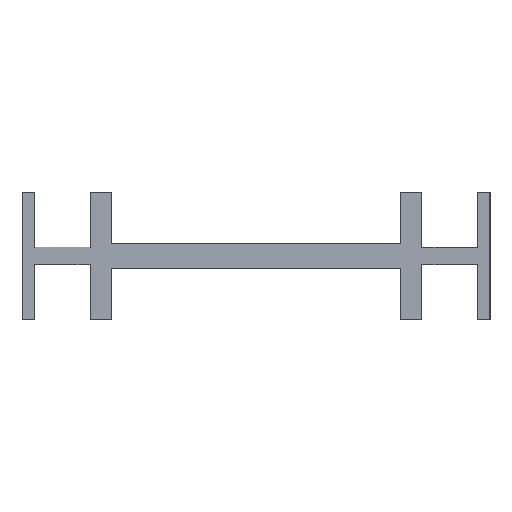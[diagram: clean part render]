
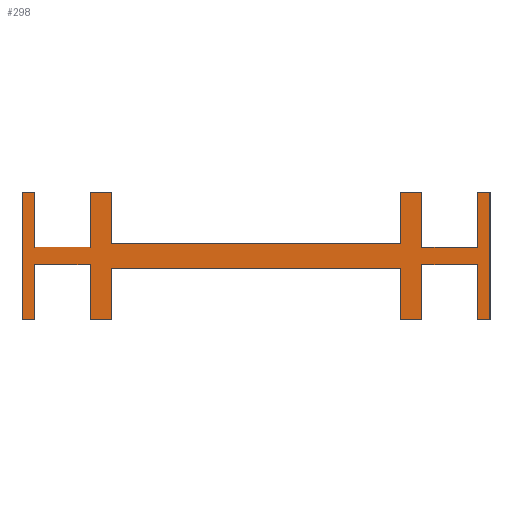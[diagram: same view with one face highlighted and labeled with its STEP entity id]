
A CAD part, left-side view. The second image highlights one B-rep face of the part: STEP entity #298.
In plain terms, the highlighted planar face has unit normal (-1, 0, 0).
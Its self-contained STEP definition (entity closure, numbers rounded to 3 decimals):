
#298=ADVANCED_FACE('',(#604),#605,.F.);
#604=FACE_OUTER_BOUND('',#901,.T.);
#605=PLANE('',#902);
#901=EDGE_LOOP('',(#1749,#1750,#1751,#1752,#1753,#1754,#1755,#1756,#1757,#1758,#1759,#1760,#1761,#1762,#1763,#1764,#1765,#1766,#1767,#1768,#1769,#1770,#1771,#1772,#1773,#1774,#1775,#1776,#1777,#1778,#1779,#1780));
#902=AXIS2_PLACEMENT_3D('',#1781,#1782,#1783);
#1749=ORIENTED_EDGE('',*,*,#2086,.T.);
#1750=ORIENTED_EDGE('',*,*,#2089,.T.);
#1751=ORIENTED_EDGE('',*,*,#2125,.T.);
#1752=ORIENTED_EDGE('',*,*,#2128,.T.);
#1753=ORIENTED_EDGE('',*,*,#2130,.T.);
#1754=ORIENTED_EDGE('',*,*,#2121,.T.);
#1755=ORIENTED_EDGE('',*,*,#2092,.F.);
#1756=ORIENTED_EDGE('',*,*,#2096,.F.);
#1757=ORIENTED_EDGE('',*,*,#2105,.F.);
#1758=ORIENTED_EDGE('',*,*,#2102,.F.);
#1759=ORIENTED_EDGE('',*,*,#2099,.F.);
#1760=ORIENTED_EDGE('',*,*,#2108,.F.);
#1761=ORIENTED_EDGE('',*,*,#2119,.F.);
#1762=ORIENTED_EDGE('',*,*,#2114,.F.);
#1763=ORIENTED_EDGE('',*,*,#2117,.F.);
#1764=ORIENTED_EDGE('',*,*,#2110,.F.);
#1765=ORIENTED_EDGE('',*,*,#2052,.F.);
#1766=ORIENTED_EDGE('',*,*,#2056,.F.);
#1767=ORIENTED_EDGE('',*,*,#2059,.F.);
#1768=ORIENTED_EDGE('',*,*,#2062,.F.);
#1769=ORIENTED_EDGE('',*,*,#2065,.F.);
#1770=ORIENTED_EDGE('',*,*,#2068,.T.);
#1771=ORIENTED_EDGE('',*,*,#2071,.T.);
#1772=ORIENTED_EDGE('',*,*,#2074,.T.);
#1773=ORIENTED_EDGE('',*,*,#2076,.T.);
#1774=ORIENTED_EDGE('',*,*,#1910,.T.);
#1775=ORIENTED_EDGE('',*,*,#1906,.T.);
#1776=ORIENTED_EDGE('',*,*,#1893,.T.);
#1777=ORIENTED_EDGE('',*,*,#1908,.F.);
#1778=ORIENTED_EDGE('',*,*,#1864,.T.);
#1779=ORIENTED_EDGE('',*,*,#2080,.T.);
#1780=ORIENTED_EDGE('',*,*,#2083,.T.);
#1781=CARTESIAN_POINT('',(0.0,26.75,7.5));
#1782=DIRECTION('',(1.0,0.,0.));
#1783=DIRECTION('',(0.,-1.0,0.0));
#1864=EDGE_CURVE('',#2230,#2257,#2259,.T.);
#1893=EDGE_CURVE('',#2303,#2301,#2304,.T.);
#1906=EDGE_CURVE('',#2318,#2303,#2321,.T.);
#1908=EDGE_CURVE('',#2230,#2301,#2323,.T.);
#1910=EDGE_CURVE('',#2325,#2318,#2326,.T.);
#2052=EDGE_CURVE('',#2543,#2545,#2546,.T.);
#2056=EDGE_CURVE('',#2549,#2543,#2551,.T.);
#2059=EDGE_CURVE('',#2553,#2549,#2555,.T.);
#2062=EDGE_CURVE('',#2557,#2553,#2559,.T.);
#2065=EDGE_CURVE('',#2561,#2557,#2563,.T.);
#2068=EDGE_CURVE('',#2561,#2565,#2567,.T.);
#2071=EDGE_CURVE('',#2565,#2569,#2571,.T.);
#2074=EDGE_CURVE('',#2569,#2573,#2575,.T.);
#2076=EDGE_CURVE('',#2573,#2325,#2577,.T.);
#2080=EDGE_CURVE('',#2257,#2580,#2582,.T.);
#2083=EDGE_CURVE('',#2580,#2584,#2586,.T.);
#2086=EDGE_CURVE('',#2584,#2588,#2590,.T.);
#2089=EDGE_CURVE('',#2588,#2592,#2594,.T.);
#2092=EDGE_CURVE('',#2596,#2598,#2599,.T.);
#2096=EDGE_CURVE('',#2602,#2596,#2604,.T.);
#2099=EDGE_CURVE('',#2606,#2608,#2609,.T.);
#2102=EDGE_CURVE('',#2608,#2612,#2613,.T.);
#2105=EDGE_CURVE('',#2612,#2602,#2616,.T.);
#2108=EDGE_CURVE('',#2618,#2606,#2620,.T.);
#2110=EDGE_CURVE('',#2545,#2622,#2623,.T.);
#2114=EDGE_CURVE('',#2626,#2628,#2629,.T.);
#2117=EDGE_CURVE('',#2622,#2626,#2632,.T.);
#2119=EDGE_CURVE('',#2628,#2618,#2634,.T.);
#2121=EDGE_CURVE('',#2636,#2598,#2637,.T.);
#2125=EDGE_CURVE('',#2592,#2640,#2642,.T.);
#2128=EDGE_CURVE('',#2640,#2644,#2646,.T.);
#2130=EDGE_CURVE('',#2644,#2636,#2648,.T.);
#2230=VERTEX_POINT('',#2788);
#2257=VERTEX_POINT('',#2821);
#2259=LINE('',#2824,#2825);
#2301=VERTEX_POINT('',#2879);
#2303=VERTEX_POINT('',#2881);
#2304=LINE('',#2882,#2883);
#2318=VERTEX_POINT('',#2900);
#2321=LINE('',#2904,#2905);
#2323=LINE('',#2907,#2908);
#2325=VERTEX_POINT('',#2910);
#2326=LINE('',#2911,#2912);
#2543=VERTEX_POINT('',#3224);
#2545=VERTEX_POINT('',#3227);
#2546=LINE('',#3228,#3229);
#2549=VERTEX_POINT('',#3233);
#2551=LINE('',#3236,#3237);
#2553=VERTEX_POINT('',#3239);
#2555=LINE('',#3242,#3243);
#2557=VERTEX_POINT('',#3245);
#2559=LINE('',#3248,#3249);
#2561=VERTEX_POINT('',#3251);
#2563=LINE('',#3254,#3255);
#2565=VERTEX_POINT('',#3257);
#2567=LINE('',#3260,#3261);
#2569=VERTEX_POINT('',#3263);
#2571=LINE('',#3266,#3267);
#2573=VERTEX_POINT('',#3269);
#2575=LINE('',#3272,#3273);
#2577=LINE('',#3275,#3276);
#2580=VERTEX_POINT('',#3279);
#2582=LINE('',#3282,#3283);
#2584=VERTEX_POINT('',#3285);
#2586=LINE('',#3288,#3289);
#2588=VERTEX_POINT('',#3291);
#2590=LINE('',#3294,#3295);
#2592=VERTEX_POINT('',#3297);
#2594=LINE('',#3300,#3301);
#2596=VERTEX_POINT('',#3303);
#2598=VERTEX_POINT('',#3306);
#2599=LINE('',#3307,#3308);
#2602=VERTEX_POINT('',#3312);
#2604=LINE('',#3315,#3316);
#2606=VERTEX_POINT('',#3318);
#2608=VERTEX_POINT('',#3321);
#2609=LINE('',#3322,#3323);
#2612=VERTEX_POINT('',#3327);
#2613=LINE('',#3328,#3329);
#2616=LINE('',#3333,#3334);
#2618=VERTEX_POINT('',#3336);
#2620=LINE('',#3339,#3340);
#2622=VERTEX_POINT('',#3342);
#2623=LINE('',#3343,#3344);
#2626=VERTEX_POINT('',#3348);
#2628=VERTEX_POINT('',#3351);
#2629=LINE('',#3352,#3353);
#2632=LINE('',#3357,#3358);
#2634=LINE('',#3360,#3361);
#2636=VERTEX_POINT('',#3363);
#2637=LINE('',#3364,#3365);
#2640=VERTEX_POINT('',#3369);
#2642=LINE('',#3372,#3373);
#2644=VERTEX_POINT('',#3375);
#2646=LINE('',#3378,#3379);
#2648=LINE('',#3381,#3382);
#2788=CARTESIAN_POINT('',(0.0,26.0,8.505));
#2821=CARTESIAN_POINT('',(0.0,26.0,15.0));
#2824=CARTESIAN_POINT('',(0.0,26.0,0.0));
#2825=VECTOR('',#3476,1.0);
#2879=CARTESIAN_POINT('',(0.0,25.995,8.505));
#2881=CARTESIAN_POINT('',(0.0,25.995,8.503));
#2882=CARTESIAN_POINT('',(0.0,25.995,8.503));
#2883=VECTOR('',#3516,1.0);
#2900=CARTESIAN_POINT('',(0.0,26.0,8.503));
#2904=CARTESIAN_POINT('',(0.0,26.0,8.503));
#2905=VECTOR('',#3533,1.0);
#2907=CARTESIAN_POINT('',(0.0,26.0,8.505));
#2908=VECTOR('',#3534,1.0);
#2910=CARTESIAN_POINT('',(0.0,26.0,8.5));
#2911=CARTESIAN_POINT('',(0.0,26.0,0.0));
#2912=VECTOR('',#3535,1.0);
#3224=CARTESIAN_POINT('',(0.0,-19.5,8.5));
#3227=CARTESIAN_POINT('',(0.0,-26.0,8.5));
#3228=CARTESIAN_POINT('',(0.0,-19.5,8.5));
#3229=VECTOR('',#3668,1.0);
#3233=CARTESIAN_POINT('',(0.0,-19.5,15.0));
#3236=CARTESIAN_POINT('',(0.0,-19.5,15.0));
#3237=VECTOR('',#3671,1.0);
#3239=CARTESIAN_POINT('',(0.0,-17.0,15.0));
#3242=CARTESIAN_POINT('',(0.0,-17.0,15.0));
#3243=VECTOR('',#3673,1.0);
#3245=CARTESIAN_POINT('',(0.0,-17.0,9.0));
#3248=CARTESIAN_POINT('',(0.0,-17.0,0.0));
#3249=VECTOR('',#3675,1.0);
#3251=CARTESIAN_POINT('',(0.0,17.0,9.0));
#3254=CARTESIAN_POINT('',(0.0,17.0,9.0));
#3255=VECTOR('',#3677,1.0);
#3257=CARTESIAN_POINT('',(0.0,17.0,15.0));
#3260=CARTESIAN_POINT('',(0.0,17.0,0.0));
#3261=VECTOR('',#3679,1.0);
#3263=CARTESIAN_POINT('',(0.0,19.5,15.0));
#3266=CARTESIAN_POINT('',(0.0,17.0,15.0));
#3267=VECTOR('',#3681,1.0);
#3269=CARTESIAN_POINT('',(0.0,19.5,8.5));
#3272=CARTESIAN_POINT('',(0.0,19.5,15.0));
#3273=VECTOR('',#3683,1.0);
#3275=CARTESIAN_POINT('',(0.0,19.5,8.5));
#3276=VECTOR('',#3684,1.0);
#3279=CARTESIAN_POINT('',(0.0,27.5,15.0));
#3282=CARTESIAN_POINT('',(0.0,26.0,15.0));
#3283=VECTOR('',#3686,1.0);
#3285=CARTESIAN_POINT('',(0.0,27.5,0.0));
#3288=CARTESIAN_POINT('',(0.0,27.5,15.0));
#3289=VECTOR('',#3688,1.0);
#3291=CARTESIAN_POINT('',(0.0,26.0,0.0));
#3294=CARTESIAN_POINT('',(0.0,27.5,0.0));
#3295=VECTOR('',#3690,1.0);
#3297=CARTESIAN_POINT('',(0.0,26.0,6.5));
#3300=CARTESIAN_POINT('',(0.0,26.0,0.0));
#3301=VECTOR('',#3692,1.0);
#3303=CARTESIAN_POINT('',(0.0,-17.0,6.0));
#3306=CARTESIAN_POINT('',(0.0,17.0,6.0));
#3307=CARTESIAN_POINT('',(0.0,-17.0,6.0));
#3308=VECTOR('',#3694,1.0);
#3312=CARTESIAN_POINT('',(0.0,-17.0,0.0));
#3315=CARTESIAN_POINT('',(0.0,-17.0,0.0));
#3316=VECTOR('',#3697,1.0);
#3318=CARTESIAN_POINT('',(0.0,-26.0,6.5));
#3321=CARTESIAN_POINT('',(0.0,-19.5,6.5));
#3322=CARTESIAN_POINT('',(0.0,-26.0,6.5));
#3323=VECTOR('',#3699,1.0);
#3327=CARTESIAN_POINT('',(0.0,-19.5,0.0));
#3328=CARTESIAN_POINT('',(0.0,-19.5,15.0));
#3329=VECTOR('',#3701,1.0);
#3333=CARTESIAN_POINT('',(0.0,-19.5,0.0));
#3334=VECTOR('',#3703,1.0);
#3336=CARTESIAN_POINT('',(0.0,-26.0,0.0));
#3339=CARTESIAN_POINT('',(0.0,-26.0,0.0));
#3340=VECTOR('',#3705,1.0);
#3342=CARTESIAN_POINT('',(0.0,-26.0,15.0));
#3343=CARTESIAN_POINT('',(0.0,-26.0,0.0));
#3344=VECTOR('',#3706,1.0);
#3348=CARTESIAN_POINT('',(0.0,-27.5,15.0));
#3351=CARTESIAN_POINT('',(0.0,-27.5,0.0));
#3352=CARTESIAN_POINT('',(0.0,-27.5,15.0));
#3353=VECTOR('',#3709,1.0);
#3357=CARTESIAN_POINT('',(0.0,-26.0,15.0));
#3358=VECTOR('',#3711,1.0);
#3360=CARTESIAN_POINT('',(0.0,-27.5,0.0));
#3361=VECTOR('',#3712,1.0);
#3363=CARTESIAN_POINT('',(0.0,17.0,0.0));
#3364=CARTESIAN_POINT('',(0.0,17.0,0.0));
#3365=VECTOR('',#3713,1.0);
#3369=CARTESIAN_POINT('',(0.0,19.5,6.5));
#3372=CARTESIAN_POINT('',(0.0,26.0,6.5));
#3373=VECTOR('',#3716,1.0);
#3375=CARTESIAN_POINT('',(0.0,19.5,0.0));
#3378=CARTESIAN_POINT('',(0.0,19.5,15.0));
#3379=VECTOR('',#3718,1.0);
#3381=CARTESIAN_POINT('',(0.0,19.5,0.0));
#3382=VECTOR('',#3719,1.0);
#3476=DIRECTION('',(0.,0.0,1.0));
#3516=DIRECTION('',(0.0,0.,1.0));
#3533=DIRECTION('',(0.0,-1.0,0.));
#3534=DIRECTION('',(0.0,-1.0,0.));
#3535=DIRECTION('',(0.,0.0,1.0));
#3668=DIRECTION('',(0.,-1.0,0.0));
#3671=DIRECTION('',(0.,0.0,-1.0));
#3673=DIRECTION('',(0.,-1.0,0.0));
#3675=DIRECTION('',(0.,0.0,1.0));
#3677=DIRECTION('',(0.,-1.0,0.0));
#3679=DIRECTION('',(0.,0.0,1.0));
#3681=DIRECTION('',(0.,1.0,0.0));
#3683=DIRECTION('',(0.,0.0,-1.0));
#3684=DIRECTION('',(0.,1.0,0.0));
#3686=DIRECTION('',(0.,1.0,0.0));
#3688=DIRECTION('',(0.,0.0,-1.0));
#3690=DIRECTION('',(0.,-1.0,0.0));
#3692=DIRECTION('',(0.,0.0,1.0));
#3694=DIRECTION('',(0.,1.0,0.0));
#3697=DIRECTION('',(0.,0.0,1.0));
#3699=DIRECTION('',(0.,1.0,0.0));
#3701=DIRECTION('',(0.,0.0,-1.0));
#3703=DIRECTION('',(0.,1.0,0.0));
#3705=DIRECTION('',(0.,0.0,1.0));
#3706=DIRECTION('',(0.,0.0,1.0));
#3709=DIRECTION('',(0.,0.0,-1.0));
#3711=DIRECTION('',(0.,-1.0,0.0));
#3712=DIRECTION('',(0.,1.0,0.0));
#3713=DIRECTION('',(0.,0.0,1.0));
#3716=DIRECTION('',(0.,-1.0,0.0));
#3718=DIRECTION('',(0.,0.0,-1.0));
#3719=DIRECTION('',(0.,-1.0,0.0));
